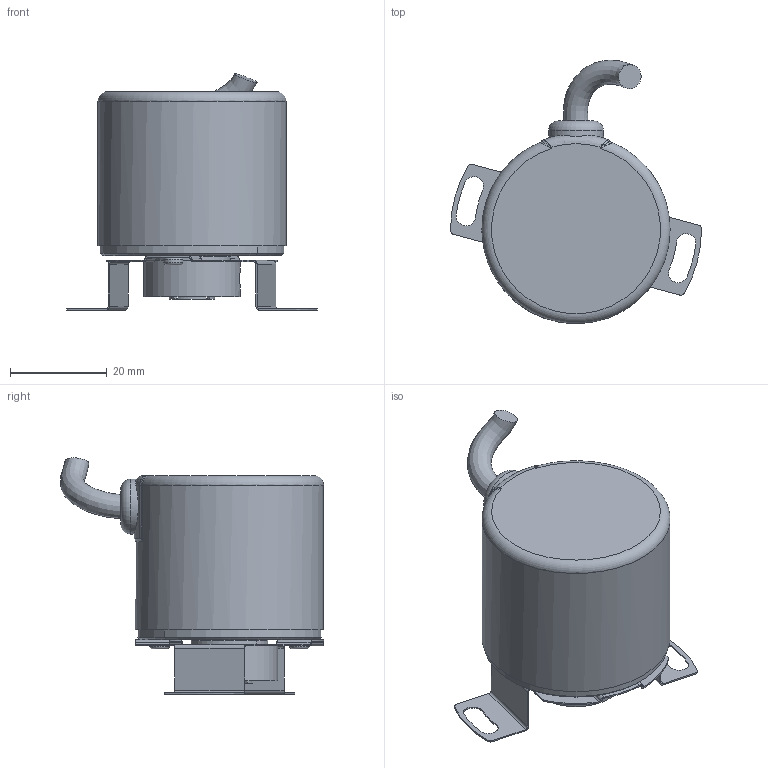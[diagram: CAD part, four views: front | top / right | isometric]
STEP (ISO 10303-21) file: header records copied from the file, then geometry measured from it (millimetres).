
FILE_DESCRIPTION(/* description */ (''),/* implementation_level */ '2;1');
FILE_NAME(/* name */ '03-2 编码器 IP54-BRT38B-8mm抱箍.stp',/* time_stamp */ '2023-06-09T12:17:39+08:00',/* author */ (''),/* organization */ (''),/* preprocessor_version */ 'ST-DEVELOPER v16.7',/* originating_system */ 'SIEMENS PLM Software NX 12.0',/* authorisation */ '');
FILE_SCHEMA (('AP203_CONFIGURATION_CONTROLLED_3D_DESIGN_OF_MECHANICAL_PARTS_AND_ASSEMBLIES_MIM_LF { 1 0 10303 403 2 1 2}'));
Length unit declared in the file: millimetre
Products named in the file (1): 290140CC9753yqu0
Bounding box: 52 x 54.54 x 48.98 mm (x, y, z)
Volume: 18718.4 mm3; surface area: 20553.3 mm2
Topology: 9 solids, 9 shells, 238 faces, 600 edges, 394 vertices
Faces by surface type: cylinder 123, plane 88, bspline 11, torus 9, cone 7
Full cylindrical faces by diameter (mm): 4.021 x2, 5.5 x1, 11.405 x1, 14.789 x1, 23.9 x1, 37 x1, 39 x1
Entity records: 8426 total; most frequent: CARTESIAN_POINT 2680, DIRECTION 1187, ORIENTED_EDGE 1150, EDGE_CURVE 575, AXIS2_PLACEMENT_3D 463, VERTEX_POINT 385, EDGE_LOOP 284, LINE 261
